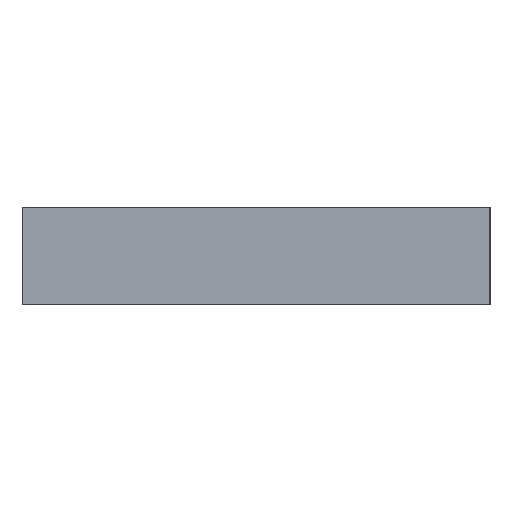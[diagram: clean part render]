
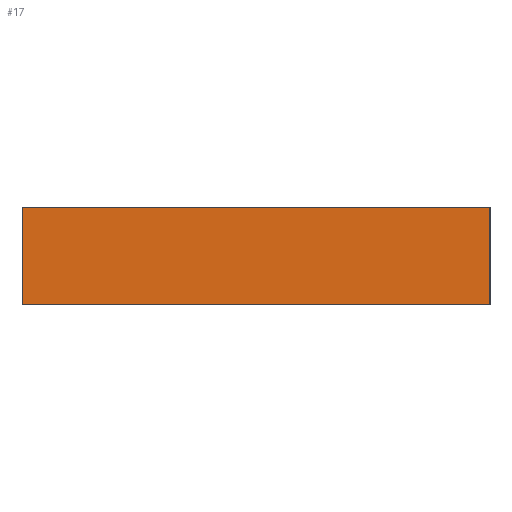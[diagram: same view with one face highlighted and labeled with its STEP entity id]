
A CAD part, left-side view. The second image highlights one B-rep face of the part: STEP entity #17.
In plain terms, the highlighted planar face has unit normal (-1, 0, 0).
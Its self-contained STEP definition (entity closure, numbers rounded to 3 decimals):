
#17 = ADVANCED_FACE('',(#18),#32,.F.);
#18 = FACE_BOUND('',#19,.F.);
#19 = EDGE_LOOP('',(#20,#55,#83,#111));
#20 = ORIENTED_EDGE('',*,*,#21,.F.);
#21 = EDGE_CURVE('',#22,#24,#26,.T.);
#22 = VERTEX_POINT('',#23);
#23 = CARTESIAN_POINT('',(-82.,-22.,27.5));
#24 = VERTEX_POINT('',#25);
#25 = CARTESIAN_POINT('',(-82.,-22.,32.5));
#26 = SURFACE_CURVE('',#27,(#31,#43),.PCURVE_S1.);
#27 = LINE('',#28,#29);
#28 = CARTESIAN_POINT('',(-82.,-22.,27.5));
#29 = VECTOR('',#30,1.);
#30 = DIRECTION('',(0.,0.,1.));
#31 = PCURVE('',#32,#37);
#32 = PLANE('',#33);
#33 = AXIS2_PLACEMENT_3D('',#34,#35,#36);
#34 = CARTESIAN_POINT('',(-82.,-22.,27.5));
#35 = DIRECTION('',(1.,0.,0.));
#36 = DIRECTION('',(0.,0.,1.));
#37 = DEFINITIONAL_REPRESENTATION('',(#38),#42);
#38 = LINE('',#39,#40);
#39 = CARTESIAN_POINT('',(0.,0.));
#40 = VECTOR('',#41,1.);
#41 = DIRECTION('',(1.,0.));
#42 = ( GEOMETRIC_REPRESENTATION_CONTEXT(2) 
PARAMETRIC_REPRESENTATION_CONTEXT() REPRESENTATION_CONTEXT('2D SPACE',''
  ) );
#43 = PCURVE('',#44,#49);
#44 = PLANE('',#45);
#45 = AXIS2_PLACEMENT_3D('',#46,#47,#48);
#46 = CARTESIAN_POINT('',(-82.,-22.,27.5));
#47 = DIRECTION('',(0.,1.,0.));
#48 = DIRECTION('',(0.,0.,1.));
#49 = DEFINITIONAL_REPRESENTATION('',(#50),#54);
#50 = LINE('',#51,#52);
#51 = CARTESIAN_POINT('',(0.,0.));
#52 = VECTOR('',#53,1.);
#53 = DIRECTION('',(1.,0.));
#54 = ( GEOMETRIC_REPRESENTATION_CONTEXT(2) 
PARAMETRIC_REPRESENTATION_CONTEXT() REPRESENTATION_CONTEXT('2D SPACE',''
  ) );
#55 = ORIENTED_EDGE('',*,*,#56,.T.);
#56 = EDGE_CURVE('',#22,#57,#59,.T.);
#57 = VERTEX_POINT('',#58);
#58 = CARTESIAN_POINT('',(-82.,2.,27.5));
#59 = SURFACE_CURVE('',#60,(#64,#71),.PCURVE_S1.);
#60 = LINE('',#61,#62);
#61 = CARTESIAN_POINT('',(-82.,-22.,27.5));
#62 = VECTOR('',#63,1.);
#63 = DIRECTION('',(0.,1.,0.));
#64 = PCURVE('',#32,#65);
#65 = DEFINITIONAL_REPRESENTATION('',(#66),#70);
#66 = LINE('',#67,#68);
#67 = CARTESIAN_POINT('',(0.,0.));
#68 = VECTOR('',#69,1.);
#69 = DIRECTION('',(0.,-1.));
#70 = ( GEOMETRIC_REPRESENTATION_CONTEXT(2) 
PARAMETRIC_REPRESENTATION_CONTEXT() REPRESENTATION_CONTEXT('2D SPACE',''
  ) );
#71 = PCURVE('',#72,#77);
#72 = PLANE('',#73);
#73 = AXIS2_PLACEMENT_3D('',#74,#75,#76);
#74 = CARTESIAN_POINT('',(-82.,-22.,27.5));
#75 = DIRECTION('',(0.,0.,1.));
#76 = DIRECTION('',(1.,0.,0.));
#77 = DEFINITIONAL_REPRESENTATION('',(#78),#82);
#78 = LINE('',#79,#80);
#79 = CARTESIAN_POINT('',(0.,0.));
#80 = VECTOR('',#81,1.);
#81 = DIRECTION('',(0.,1.));
#82 = ( GEOMETRIC_REPRESENTATION_CONTEXT(2) 
PARAMETRIC_REPRESENTATION_CONTEXT() REPRESENTATION_CONTEXT('2D SPACE',''
  ) );
#83 = ORIENTED_EDGE('',*,*,#84,.T.);
#84 = EDGE_CURVE('',#57,#85,#87,.T.);
#85 = VERTEX_POINT('',#86);
#86 = CARTESIAN_POINT('',(-82.,2.,32.5));
#87 = SURFACE_CURVE('',#88,(#92,#99),.PCURVE_S1.);
#88 = LINE('',#89,#90);
#89 = CARTESIAN_POINT('',(-82.,2.,27.5));
#90 = VECTOR('',#91,1.);
#91 = DIRECTION('',(0.,0.,1.));
#92 = PCURVE('',#32,#93);
#93 = DEFINITIONAL_REPRESENTATION('',(#94),#98);
#94 = LINE('',#95,#96);
#95 = CARTESIAN_POINT('',(0.,-24.));
#96 = VECTOR('',#97,1.);
#97 = DIRECTION('',(1.,0.));
#98 = ( GEOMETRIC_REPRESENTATION_CONTEXT(2) 
PARAMETRIC_REPRESENTATION_CONTEXT() REPRESENTATION_CONTEXT('2D SPACE',''
  ) );
#99 = PCURVE('',#100,#105);
#100 = PLANE('',#101);
#101 = AXIS2_PLACEMENT_3D('',#102,#103,#104);
#102 = CARTESIAN_POINT('',(-82.,2.,27.5));
#103 = DIRECTION('',(0.,1.,0.));
#104 = DIRECTION('',(0.,0.,1.));
#105 = DEFINITIONAL_REPRESENTATION('',(#106),#110);
#106 = LINE('',#107,#108);
#107 = CARTESIAN_POINT('',(0.,0.));
#108 = VECTOR('',#109,1.);
#109 = DIRECTION('',(1.,0.));
#110 = ( GEOMETRIC_REPRESENTATION_CONTEXT(2) 
PARAMETRIC_REPRESENTATION_CONTEXT() REPRESENTATION_CONTEXT('2D SPACE',''
  ) );
#111 = ORIENTED_EDGE('',*,*,#112,.F.);
#112 = EDGE_CURVE('',#24,#85,#113,.T.);
#113 = SURFACE_CURVE('',#114,(#118,#125),.PCURVE_S1.);
#114 = LINE('',#115,#116);
#115 = CARTESIAN_POINT('',(-82.,-22.,32.5));
#116 = VECTOR('',#117,1.);
#117 = DIRECTION('',(0.,1.,0.));
#118 = PCURVE('',#32,#119);
#119 = DEFINITIONAL_REPRESENTATION('',(#120),#124);
#120 = LINE('',#121,#122);
#121 = CARTESIAN_POINT('',(5.,0.));
#122 = VECTOR('',#123,1.);
#123 = DIRECTION('',(0.,-1.));
#124 = ( GEOMETRIC_REPRESENTATION_CONTEXT(2) 
PARAMETRIC_REPRESENTATION_CONTEXT() REPRESENTATION_CONTEXT('2D SPACE',''
  ) );
#125 = PCURVE('',#126,#131);
#126 = PLANE('',#127);
#127 = AXIS2_PLACEMENT_3D('',#128,#129,#130);
#128 = CARTESIAN_POINT('',(-82.,-22.,32.5));
#129 = DIRECTION('',(0.,0.,1.));
#130 = DIRECTION('',(1.,0.,0.));
#131 = DEFINITIONAL_REPRESENTATION('',(#132),#136);
#132 = LINE('',#133,#134);
#133 = CARTESIAN_POINT('',(0.,0.));
#134 = VECTOR('',#135,1.);
#135 = DIRECTION('',(0.,1.));
#136 = ( GEOMETRIC_REPRESENTATION_CONTEXT(2) 
PARAMETRIC_REPRESENTATION_CONTEXT() REPRESENTATION_CONTEXT('2D SPACE',''
  ) );
